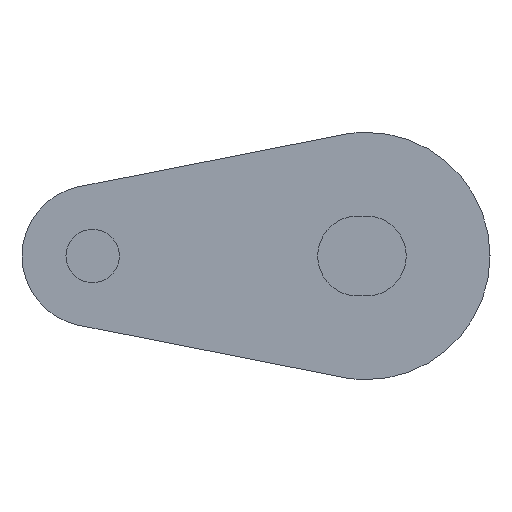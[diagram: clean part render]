
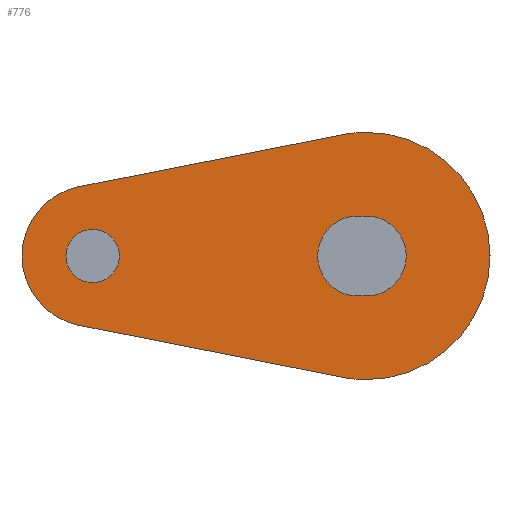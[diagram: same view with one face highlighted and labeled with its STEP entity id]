
A CAD part, left-side view. The second image highlights one B-rep face of the part: STEP entity #776.
In plain terms, the highlighted planar face has unit normal (-1, 0, 0).
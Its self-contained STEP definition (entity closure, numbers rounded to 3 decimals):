
#5 = CIRCLE ( 'NONE', #741, 7. ) ;
#28 = FACE_OUTER_BOUND ( 'NONE', #969, .T. ) ;
#37 = LINE ( 'NONE', #381, #41 ) ;
#41 = VECTOR ( 'NONE', #402, 1000. ) ;
#52 = CIRCLE ( 'NONE', #634, 2.26 ) ;
#56 = CIRCLE ( 'NONE', #635, 7. ) ;
#62 = FACE_BOUND ( 'NONE', #959, .T. ) ;
#64 = CIRCLE ( 'NONE', #676, 7. ) ;
#66 = CIRCLE ( 'NONE', #636, 4. ) ;
#73 = CIRCLE ( 'NONE', #719, 1.51 ) ;
#77 = LINE ( 'NONE', #118, #91 ) ;
#91 = VECTOR ( 'NONE', #117, 1000. ) ;
#95 = CIRCLE ( 'NONE', #744, 2.26 ) ;
#117 = DIRECTION ( 'NONE',  ( 0., 0.981, 0.194 ) ) ;
#118 = CARTESIAN_POINT ( 'NONE',  ( -232.5, 1.355, -6.868 ) ) ;
#121 = DIRECTION ( 'NONE',  ( 0., 0., -1. ) ) ;
#122 = DIRECTION ( 'NONE',  ( 1., 0., 0. ) ) ;
#123 = CARTESIAN_POINT ( 'NONE',  ( -232.5, 0., 0. ) ) ;
#126 = CARTESIAN_POINT ( 'NONE',  ( -232.5, 15.5, 0. ) ) ;
#140 = DIRECTION ( 'NONE',  ( 0., 0., -1. ) ) ;
#141 = DIRECTION ( 'NONE',  ( 1., 0., 0. ) ) ;
#146 = DIRECTION ( 'NONE',  ( 1., 0., 0. ) ) ;
#147 = DIRECTION ( 'NONE',  ( 0., 0., -1. ) ) ;
#148 = CARTESIAN_POINT ( 'NONE',  ( -232.5, 0., 0. ) ) ;
#154 = DIRECTION ( 'NONE',  ( 0., 0., -1. ) ) ;
#155 = DIRECTION ( 'NONE',  ( 1., 0., 0. ) ) ;
#168 = CARTESIAN_POINT ( 'NONE',  ( -232.5, 0., 0. ) ) ;
#169 = DIRECTION ( 'NONE',  ( 0., 0., -1. ) ) ;
#170 = DIRECTION ( 'NONE',  ( 1., 0., 0. ) ) ;
#174 = CARTESIAN_POINT ( 'NONE',  ( -232.5, 0., -7. ) ) ;
#183 = VERTEX_POINT ( 'NONE', #383 ) ;
#190 = CARTESIAN_POINT ( 'NONE',  ( -232.5, 1.355, 6.868 ) ) ;
#203 = FACE_BOUND ( 'NONE', #977, .T. ) ;
#204 = CARTESIAN_POINT ( 'NONE',  ( -232.5, 0.5, 2.26 ) ) ;
#205 = CARTESIAN_POINT ( 'NONE',  ( -232.5, 0., 2.26 ) ) ;
#219 = CARTESIAN_POINT ( 'NONE',  ( -232.5, 16.274, 3.924 ) ) ;
#229 = CARTESIAN_POINT ( 'NONE',  ( -232.5, 16.274, -3.924 ) ) ;
#230 = CARTESIAN_POINT ( 'NONE',  ( -232.5, 15.5, -1.51 ) ) ;
#246 = DIRECTION ( 'NONE',  ( 0., -0.981, 0.194 ) ) ;
#265 = CARTESIAN_POINT ( 'NONE',  ( -232.5, 0., 7. ) ) ;
#270 = DIRECTION ( 'NONE',  ( 1., 0., 0. ) ) ;
#273 = VERTEX_POINT ( 'NONE', #174 ) ;
#274 = VERTEX_POINT ( 'NONE', #346 ) ;
#275 = VERTEX_POINT ( 'NONE', #348 ) ;
#278 = VERTEX_POINT ( 'NONE', #344 ) ;
#295 = CARTESIAN_POINT ( 'NONE',  ( -232.5, 16.274, 3.924 ) ) ;
#303 = VERTEX_POINT ( 'NONE', #205 ) ;
#317 = VERTEX_POINT ( 'NONE', #219 ) ;
#323 = VERTEX_POINT ( 'NONE', #230 ) ;
#326 = VERTEX_POINT ( 'NONE', #229 ) ;
#333 = VERTEX_POINT ( 'NONE', #204 ) ;
#335 = VERTEX_POINT ( 'NONE', #190 ) ;
#336 = DIRECTION ( 'NONE',  ( 0., 0., -1. ) ) ;
#344 = CARTESIAN_POINT ( 'NONE',  ( -232.5, 0.5, -2.26 ) ) ;
#346 = CARTESIAN_POINT ( 'NONE',  ( -232.5, 0., -2.26 ) ) ;
#348 = CARTESIAN_POINT ( 'NONE',  ( -232.5, 1.355, -6.868 ) ) ;
#356 = CARTESIAN_POINT ( 'NONE',  ( -232.5, 15.5, 0. ) ) ;
#357 = CARTESIAN_POINT ( 'NONE',  ( -232.5, 0.5, 0. ) ) ;
#381 = CARTESIAN_POINT ( 'NONE',  ( -232.5, 0.5, 2.26 ) ) ;
#383 = CARTESIAN_POINT ( 'NONE',  ( -232.5, 15.5, 1.51 ) ) ;
#388 = VERTEX_POINT ( 'NONE', #265 ) ;
#402 = DIRECTION ( 'NONE',  ( 0., -1., 0. ) ) ;
#411 = DIRECTION ( 'NONE',  ( 0., 0., -1. ) ) ;
#412 = DIRECTION ( 'NONE',  ( 1., 0., 0. ) ) ;
#414 = DIRECTION ( 'NONE',  ( 0., 0., -1. ) ) ;
#415 = DIRECTION ( 'NONE',  ( 1., 0., 0. ) ) ;
#416 = DIRECTION ( 'NONE',  ( 0., 1., 0. ) ) ;
#418 = CARTESIAN_POINT ( 'NONE',  ( -232.5, 0.5, -2.26 ) ) ;
#425 = CARTESIAN_POINT ( 'NONE',  ( -232.5, 0., 0. ) ) ;
#430 = CARTESIAN_POINT ( 'NONE',  ( -232.5, 15.5, 0. ) ) ;
#491 = PLANE ( 'NONE',  #616 ) ;
#492 = CARTESIAN_POINT ( 'NONE',  ( -232.5, 15.5, 0. ) ) ;
#493 = DIRECTION ( 'NONE',  ( -1., 0., 0. ) ) ;
#494 = DIRECTION ( 'NONE',  ( 0., 0., -1. ) ) ;
#616 = AXIS2_PLACEMENT_3D ( 'NONE', #492, #493, #494 ) ;
#627 = EDGE_CURVE ( 'NONE', #317, #335, #1026, .T. ) ;
#634 = AXIS2_PLACEMENT_3D ( 'NONE', #357, #415, #414 ) ;
#635 = AXIS2_PLACEMENT_3D ( 'NONE', #123, #122, #121 ) ;
#636 = AXIS2_PLACEMENT_3D ( 'NONE', #356, #146, #147 ) ;
#646 = EDGE_CURVE ( 'NONE', #323, #183, #1032, .T. ) ;
#660 = EDGE_CURVE ( 'NONE', #274, #278, #1028, .T. ) ;
#668 = AXIS2_PLACEMENT_3D ( 'NONE', #430, #270, #336 ) ;
#676 = AXIS2_PLACEMENT_3D ( 'NONE', #148, #155, #154 ) ;
#677 = EDGE_CURVE ( 'NONE', #275, #326, #77, .T. ) ;
#682 = EDGE_CURVE ( 'NONE', #388, #273, #56, .T. ) ;
#699 = EDGE_CURVE ( 'NONE', #183, #323, #73, .T. ) ;
#717 = EDGE_CURVE ( 'NONE', #273, #275, #5, .T. ) ;
#719 = AXIS2_PLACEMENT_3D ( 'NONE', #126, #141, #140 ) ;
#723 = EDGE_CURVE ( 'NONE', #326, #317, #66, .T. ) ;
#727 = EDGE_CURVE ( 'NONE', #335, #388, #64, .T. ) ;
#741 = AXIS2_PLACEMENT_3D ( 'NONE', #168, #170, #169 ) ;
#743 = EDGE_CURVE ( 'NONE', #333, #303, #37, .T. ) ;
#744 = AXIS2_PLACEMENT_3D ( 'NONE', #425, #412, #411 ) ;
#747 = EDGE_CURVE ( 'NONE', #278, #333, #52, .T. ) ;
#748 = EDGE_CURVE ( 'NONE', #303, #274, #95, .T. ) ;
#776 = ADVANCED_FACE ( 'NONE', ( #203, #62, #28 ), #491, .T. ) ;
#877 = ORIENTED_EDGE ( 'NONE', *, *, #723, .F. ) ;
#885 = ORIENTED_EDGE ( 'NONE', *, *, #699, .T. ) ;
#892 = ORIENTED_EDGE ( 'NONE', *, *, #660, .T. ) ;
#903 = ORIENTED_EDGE ( 'NONE', *, *, #743, .T. ) ;
#905 = ORIENTED_EDGE ( 'NONE', *, *, #727, .F. ) ;
#906 = ORIENTED_EDGE ( 'NONE', *, *, #627, .F. ) ;
#908 = ORIENTED_EDGE ( 'NONE', *, *, #682, .F. ) ;
#909 = ORIENTED_EDGE ( 'NONE', *, *, #748, .T. ) ;
#911 = ORIENTED_EDGE ( 'NONE', *, *, #646, .T. ) ;
#912 = ORIENTED_EDGE ( 'NONE', *, *, #717, .F. ) ;
#927 = ORIENTED_EDGE ( 'NONE', *, *, #677, .F. ) ;
#959 = EDGE_LOOP ( 'NONE', ( #911, #885 ) ) ;
#969 = EDGE_LOOP ( 'NONE', ( #877, #927, #912, #908, #905, #906 ) ) ;
#977 = EDGE_LOOP ( 'NONE', ( #992, #903, #909, #892 ) ) ;
#992 = ORIENTED_EDGE ( 'NONE', *, *, #747, .T. ) ;
#1019 = VECTOR ( 'NONE', #246, 1000. ) ;
#1026 = LINE ( 'NONE', #295, #1019 ) ;
#1028 = LINE ( 'NONE', #418, #1059 ) ;
#1032 = CIRCLE ( 'NONE', #668, 1.51 ) ;
#1059 = VECTOR ( 'NONE', #416, 1000. ) ;
